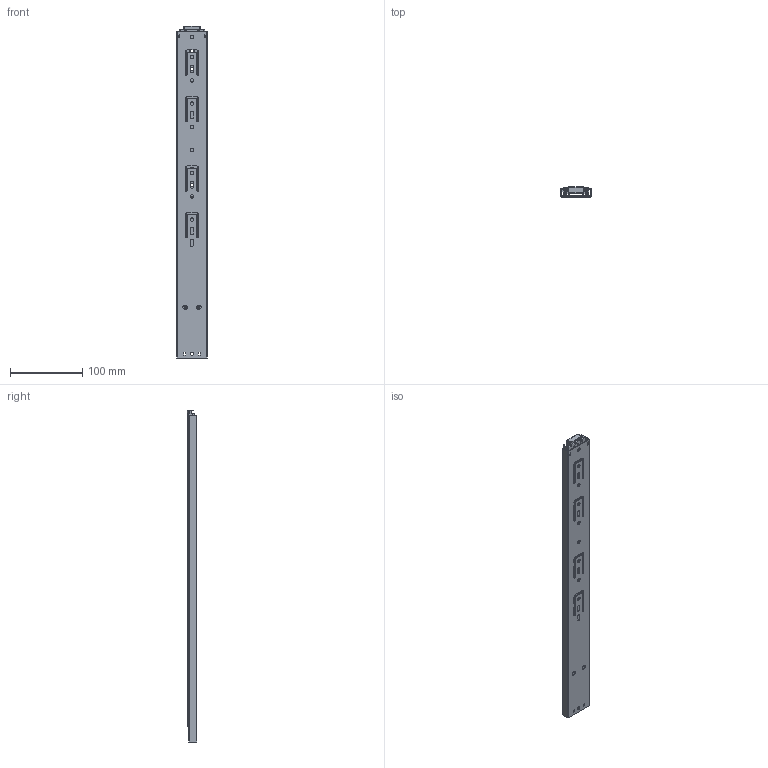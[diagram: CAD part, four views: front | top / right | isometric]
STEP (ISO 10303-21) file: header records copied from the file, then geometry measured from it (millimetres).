
FILE_DESCRIPTION(/* description */ (''),/* implementation_level */ '2;1');
FILE_NAME(/* name */ 'C:\Users\dmitruk\Documents\WORK\\X2\041D0410041F042004100412041B042F042E042904180415\X0\\Шариковые\Push to open\39195-450.stp',/* time_stamp */ '2020-07-27T14:01:14+03:00',/* author */ ('dmitruk'),/* organization */ (''),/* preprocessor_version */ 'ST-DEVELOPER v16.5',/* originating_system */ 'Autodesk Inventor 2017',/* authorisation */ '');
FILE_SCHEMA (('AUTOMOTIVE_DESIGN { 1 0 10303 214 3 1 1 }'));
Length unit declared in the file: millimetre
Products named in the file (5): 39150-450; нш400_1; 39195_12; нш400_3; 39195_2
Assembly tree (4 placements, depth 2):
  39150-450
    нш400_1
    39195_12
    нш400_3
    39195_2
Bounding box: 42 x 13 x 458 mm (x, y, z)
Volume: 71353.3 mm3; surface area: 139047.5 mm2
Topology: 4 solids, 4 shells, 723 faces, 2080 edges, 1363 vertices
Faces by surface type: plane 411, cylinder 264, sphere 48
Full cylindrical faces by diameter (mm): 4.5 x1, 4.8 x11, 5 x1, 6 x2, 8 x1
Entity records: 24282 total; most frequent: CARTESIAN_POINT 4399, DIRECTION 4151, ORIENTED_EDGE 4128, EDGE_CURVE 2064, LINE 1389, VECTOR 1389, AXIS2_PLACEMENT_3D 1381, VERTEX_POINT 1363
